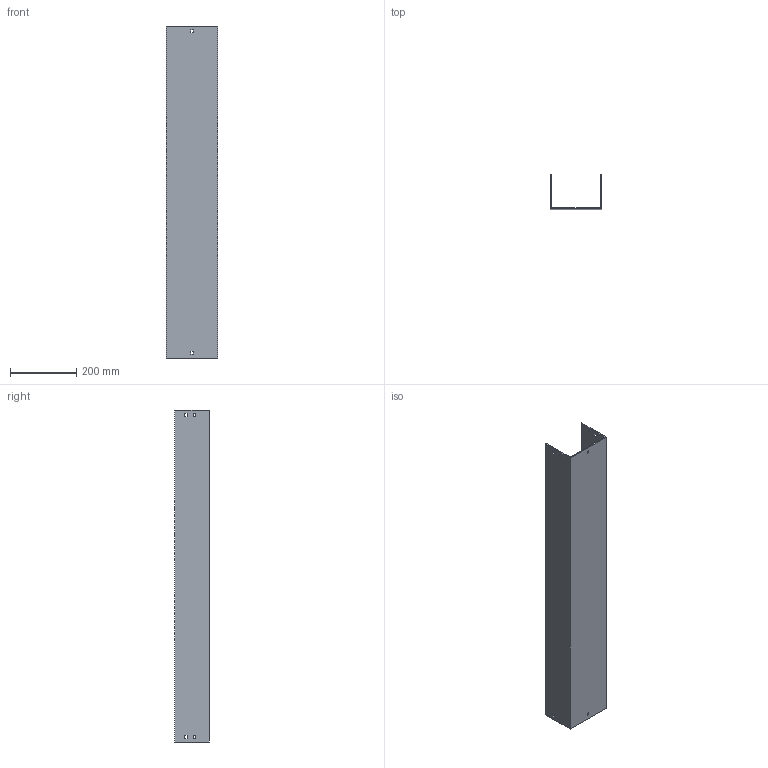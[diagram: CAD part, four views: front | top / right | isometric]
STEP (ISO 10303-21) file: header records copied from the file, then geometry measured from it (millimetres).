
FILE_DESCRIPTION (( 'STEP AP214' ), '1' );
FILE_NAME ('03F1D150.step', '2025-02-21T13:15:22', ( '' ), ( '' ), 'SwSTEP 2.0', 'SolidWorks 2023', '' );
FILE_SCHEMA (( 'AUTOMOTIVE_DESIGN' ));
Length unit declared in the file: millimetre
Products named in the file (1): 03F1D150
Bounding box: 154 x 104 x 1000 mm (x, y, z)
Volume: 1240130.5 mm3; surface area: 719300 mm2
Topology: 1 solids, 1 shells, 50 faces, 144 edges, 96 vertices
Faces by surface type: plane 50
Entity records: 1671 total; most frequent: CARTESIAN_POINT 291, ORIENTED_EDGE 288, DIRECTION 246, VECTOR 144, LINE 144, EDGE_CURVE 144, VERTEX_POINT 96, EDGE_LOOP 70
